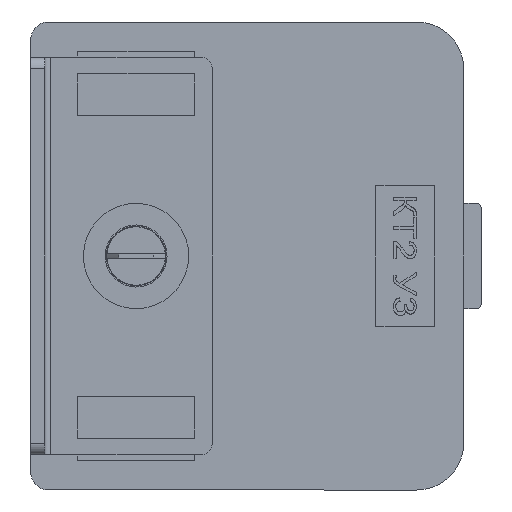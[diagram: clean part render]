
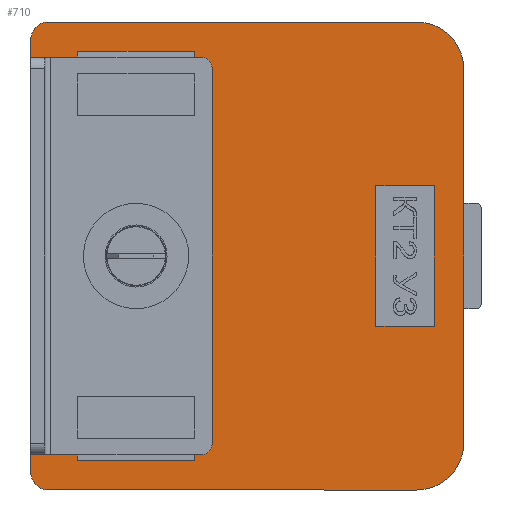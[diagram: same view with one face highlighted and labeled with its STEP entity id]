
A CAD part, front view. The second image highlights one B-rep face of the part: STEP entity #710.
In plain terms, the highlighted planar face has unit normal (0, -1, 0).
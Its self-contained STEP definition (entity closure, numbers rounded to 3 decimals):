
#710=ADVANCED_FACE('',(#51188,#51190,#51192),#51194,.T.);
#51188=FACE_BOUND('',#51189,.T.);
#51189=EDGE_LOOP('',(#91215,#91216,#91217,#91218,#91219,#91220,#91221,#91222));
#51190=FACE_BOUND('',#51191,.T.);
#51191=EDGE_LOOP('',(#91223,#91224,#91225,#91226,#91227,#91228,#91229,#91230,#91231,
#91232,#91233,#91234,#91235,#91236));
#51192=FACE_BOUND('',#51193,.T.);
#51193=EDGE_LOOP('',(#91237,#91238,#91239,#91240));
#51194=PLANE('',#51195);
#51195=AXIS2_PLACEMENT_3D('',#51196,#51197,#51198);
#51196=CARTESIAN_POINT('',(0.,-64.5,37.));
#51197=DIRECTION('',(0.,-1.,0.));
#51198=DIRECTION('',(0.,0.,-1.));
#91215=ORIENTED_EDGE('',*,*,#123098,.T.);
#91216=ORIENTED_EDGE('',*,*,#123099,.T.);
#91217=ORIENTED_EDGE('',*,*,#122857,.T.);
#91218=ORIENTED_EDGE('',*,*,#123097,.T.);
#91219=ORIENTED_EDGE('',*,*,#123100,.T.);
#91220=ORIENTED_EDGE('',*,*,#123101,.T.);
#91221=ORIENTED_EDGE('',*,*,#123102,.T.);
#91222=ORIENTED_EDGE('',*,*,#123103,.T.);
#91223=ORIENTED_EDGE('',*,*,#123104,.F.);
#91224=ORIENTED_EDGE('',*,*,#123105,.F.);
#91225=ORIENTED_EDGE('',*,*,#123106,.T.);
#91226=ORIENTED_EDGE('',*,*,#123107,.T.);
#91227=ORIENTED_EDGE('',*,*,#123108,.T.);
#91228=ORIENTED_EDGE('',*,*,#123109,.F.);
#91229=ORIENTED_EDGE('',*,*,#123110,.F.);
#91230=ORIENTED_EDGE('',*,*,#123111,.F.);
#91231=ORIENTED_EDGE('',*,*,#123112,.T.);
#91232=ORIENTED_EDGE('',*,*,#123113,.T.);
#91233=ORIENTED_EDGE('',*,*,#123114,.T.);
#91234=ORIENTED_EDGE('',*,*,#123115,.F.);
#91235=ORIENTED_EDGE('',*,*,#123116,.F.);
#91236=ORIENTED_EDGE('',*,*,#123117,.F.);
#91237=ORIENTED_EDGE('',*,*,#123118,.T.);
#91238=ORIENTED_EDGE('',*,*,#123119,.T.);
#91239=ORIENTED_EDGE('',*,*,#123120,.T.);
#91240=ORIENTED_EDGE('',*,*,#123121,.T.);
#122857=EDGE_CURVE('',#138982,#138980,#138983,.T.);
#123097=EDGE_CURVE('',#138980,#139419,#139421,.T.);
#123098=EDGE_CURVE('',#139422,#139423,#139424,.T.);
#123099=EDGE_CURVE('',#139423,#138982,#139425,.T.);
#123100=EDGE_CURVE('',#139419,#139426,#139427,.T.);
#123101=EDGE_CURVE('',#139426,#139428,#139429,.T.);
#123102=EDGE_CURVE('',#139428,#139430,#139431,.T.);
#123103=EDGE_CURVE('',#139430,#139422,#139432,.T.);
#123104=EDGE_CURVE('',#139433,#139434,#139435,.F.);
#123105=EDGE_CURVE('',#139436,#139433,#139437,.T.);
#123106=EDGE_CURVE('',#139436,#139438,#139439,.F.);
#123107=EDGE_CURVE('',#139438,#139440,#139441,.F.);
#123108=EDGE_CURVE('',#139440,#139442,#139443,.F.);
#123109=EDGE_CURVE('',#139444,#139442,#139445,.T.);
#123110=EDGE_CURVE('',#139446,#139444,#139447,.F.);
#123111=EDGE_CURVE('',#139448,#139446,#139449,.T.);
#123112=EDGE_CURVE('',#139448,#139450,#139451,.F.);
#123113=EDGE_CURVE('',#139450,#139452,#139453,.F.);
#123114=EDGE_CURVE('',#139452,#139454,#139455,.F.);
#123115=EDGE_CURVE('',#139456,#139454,#139457,.T.);
#123116=EDGE_CURVE('',#139458,#139456,#139459,.F.);
#123117=EDGE_CURVE('',#139434,#139458,#139460,.T.);
#123118=EDGE_CURVE('',#139461,#139462,#139463,.F.);
#123119=EDGE_CURVE('',#139462,#139464,#139465,.F.);
#123120=EDGE_CURVE('',#139464,#139466,#139467,.F.);
#123121=EDGE_CURVE('',#139466,#139461,#139468,.F.);
#138980=VERTEX_POINT('',#165963);
#138982=VERTEX_POINT('',#165967);
#138983=LINE('',#165968,#165969);
#139419=VERTEX_POINT('',#166907);
#139421=CIRCLE('',#166911,4.);
#139422=VERTEX_POINT('',#166915);
#139423=VERTEX_POINT('',#166916);
#139424=LINE('',#166917,#166918);
#139425=CIRCLE('',#166920,1.5);
#139426=VERTEX_POINT('',#166924);
#139427=LINE('',#166925,#166926);
#139428=VERTEX_POINT('',#166928);
#139429=CIRCLE('',#166929,4.);
#139430=VERTEX_POINT('',#166933);
#139431=LINE('',#166934,#166935);
#139432=CIRCLE('',#166937,1.5);
#139433=VERTEX_POINT('',#166941);
#139434=VERTEX_POINT('',#166942);
#139435=CIRCLE('',#166943,1.);
#139436=VERTEX_POINT('',#166947);
#139437=LINE('',#166948,#166949);
#139438=VERTEX_POINT('',#166951);
#139439=LINE('',#166952,#166953);
#139440=VERTEX_POINT('',#166955);
#139441=LINE('',#166956,#166957);
#139442=VERTEX_POINT('',#166959);
#139443=LINE('',#166960,#166961);
#139444=VERTEX_POINT('',#166963);
#139445=LINE('',#166964,#166965);
#139446=VERTEX_POINT('',#166967);
#139447=LINE('',#166968,#166969);
#139448=VERTEX_POINT('',#166971);
#139449=LINE('',#166972,#166973);
#139450=VERTEX_POINT('',#166975);
#139451=LINE('',#166976,#166977);
#139452=VERTEX_POINT('',#166979);
#139453=LINE('',#166980,#166981);
#139454=VERTEX_POINT('',#166983);
#139455=LINE('',#166984,#166985);
#139456=VERTEX_POINT('',#166987);
#139457=LINE('',#166988,#166989);
#139458=VERTEX_POINT('',#166991);
#139459=CIRCLE('',#166992,1.);
#139460=LINE('',#166996,#166997);
#139461=VERTEX_POINT('',#166999);
#139462=VERTEX_POINT('',#167000);
#139463=LINE('',#167001,#167002);
#139464=VERTEX_POINT('',#167004);
#139465=LINE('',#167005,#167006);
#139466=VERTEX_POINT('',#167008);
#139467=LINE('',#167009,#167010);
#139468=LINE('',#167012,#167013);
#165963=CARTESIAN_POINT('',(33.,-64.5,0.));
#165967=CARTESIAN_POINT('',(1.5,-64.5,0.));
#165968=CARTESIAN_POINT('',(1.5,-64.5,0.));
#165969=VECTOR('',#165970,1.);
#165970=DIRECTION('',(1.,0.,0.));
#166907=CARTESIAN_POINT('',(37.,-64.5,4.));
#166911=AXIS2_PLACEMENT_3D('',#166912,#166913,#166914);
#166912=CARTESIAN_POINT('',(33.,-64.5,4.));
#166913=DIRECTION('',(0.,-1.,0.));
#166914=DIRECTION('',(0.,0.,-1.));
#166915=CARTESIAN_POINT('',(0.,-64.5,38.5));
#166916=CARTESIAN_POINT('',(0.,-64.5,1.5));
#166917=CARTESIAN_POINT('',(0.,-64.5,38.5));
#166918=VECTOR('',#166919,1.);
#166919=DIRECTION('',(0.,0.,-1.));
#166920=AXIS2_PLACEMENT_3D('',#166921,#166922,#166923);
#166921=CARTESIAN_POINT('',(1.5,-64.5,1.5));
#166922=DIRECTION('',(0.,-1.,0.));
#166923=DIRECTION('',(-1.,0.,0.));
#166924=CARTESIAN_POINT('',(37.,-64.5,36.));
#166925=CARTESIAN_POINT('',(37.,-64.5,4.));
#166926=VECTOR('',#166927,1.);
#166927=DIRECTION('',(0.,0.,1.));
#166928=CARTESIAN_POINT('',(33.,-64.5,40.));
#166929=AXIS2_PLACEMENT_3D('',#166930,#166931,#166932);
#166930=CARTESIAN_POINT('',(33.,-64.5,36.));
#166931=DIRECTION('',(0.,-1.,0.));
#166932=DIRECTION('',(1.,0.,0.));
#166933=CARTESIAN_POINT('',(1.5,-64.5,40.));
#166934=CARTESIAN_POINT('',(33.,-64.5,40.));
#166935=VECTOR('',#166936,1.);
#166936=DIRECTION('',(-1.,0.,0.));
#166937=AXIS2_PLACEMENT_3D('',#166938,#166939,#166940);
#166938=CARTESIAN_POINT('',(1.5,-64.5,38.5));
#166939=DIRECTION('',(0.,-1.,0.));
#166940=DIRECTION('',(0.,0.,1.));
#166941=CARTESIAN_POINT('',(14.5,-64.5,3.));
#166942=CARTESIAN_POINT('',(15.5,-64.5,4.));
#166943=AXIS2_PLACEMENT_3D('',#166944,#166945,#166946);
#166944=CARTESIAN_POINT('',(14.5,-64.5,4.));
#166945=DIRECTION('',(0.,1.,0.));
#166946=DIRECTION('',(1.,0.,0.));
#166947=CARTESIAN_POINT('',(14.,-64.5,3.));
#166948=CARTESIAN_POINT('',(14.,-64.5,3.));
#166949=VECTOR('',#166950,1.);
#166950=DIRECTION('',(1.,0.,0.));
#166951=CARTESIAN_POINT('',(14.,-64.5,2.5));
#166952=CARTESIAN_POINT('',(14.,-64.5,2.5));
#166953=VECTOR('',#166954,1.);
#166954=DIRECTION('',(0.,0.,1.));
#166955=CARTESIAN_POINT('',(4.,-64.5,2.5));
#166956=CARTESIAN_POINT('',(4.,-64.5,2.5));
#166957=VECTOR('',#166958,1.);
#166958=DIRECTION('',(1.,0.,0.));
#166959=CARTESIAN_POINT('',(4.,-64.5,3.));
#166960=CARTESIAN_POINT('',(4.,-64.5,3.));
#166961=VECTOR('',#166962,1.);
#166962=DIRECTION('',(0.,0.,-1.));
#166963=CARTESIAN_POINT('',(1.7,-64.5,3.));
#166964=CARTESIAN_POINT('',(1.7,-64.5,3.));
#166965=VECTOR('',#166966,1.);
#166966=DIRECTION('',(1.,0.,0.));
#166967=CARTESIAN_POINT('',(1.7,-64.5,37.));
#166968=CARTESIAN_POINT('',(1.7,-64.5,3.));
#166969=VECTOR('',#166970,1.);
#166970=DIRECTION('',(0.,0.,1.));
#166971=CARTESIAN_POINT('',(4.,-64.5,37.));
#166972=CARTESIAN_POINT('',(4.,-64.5,37.));
#166973=VECTOR('',#166974,1.);
#166974=DIRECTION('',(-1.,0.,0.));
#166975=CARTESIAN_POINT('',(4.,-64.5,37.5));
#166976=CARTESIAN_POINT('',(4.,-64.5,37.5));
#166977=VECTOR('',#166978,1.);
#166978=DIRECTION('',(0.,0.,-1.));
#166979=CARTESIAN_POINT('',(14.,-64.5,37.5));
#166980=CARTESIAN_POINT('',(14.,-64.5,37.5));
#166981=VECTOR('',#166982,1.);
#166982=DIRECTION('',(-1.,0.,0.));
#166983=CARTESIAN_POINT('',(14.,-64.5,37.));
#166984=CARTESIAN_POINT('',(14.,-64.5,37.));
#166985=VECTOR('',#166986,1.);
#166986=DIRECTION('',(0.,0.,1.));
#166987=CARTESIAN_POINT('',(14.5,-64.5,37.));
#166988=CARTESIAN_POINT('',(14.5,-64.5,37.));
#166989=VECTOR('',#166990,1.);
#166990=DIRECTION('',(-1.,0.,0.));
#166991=CARTESIAN_POINT('',(15.5,-64.5,36.));
#166992=AXIS2_PLACEMENT_3D('',#166993,#166994,#166995);
#166993=CARTESIAN_POINT('',(14.5,-64.5,36.));
#166994=DIRECTION('',(0.,1.,0.));
#166995=DIRECTION('',(0.,0.,1.));
#166996=CARTESIAN_POINT('',(15.5,-64.5,4.));
#166997=VECTOR('',#166998,1.);
#166998=DIRECTION('',(0.,0.,1.));
#166999=CARTESIAN_POINT('',(34.5,-64.5,14.));
#167000=CARTESIAN_POINT('',(29.5,-64.5,14.));
#167001=CARTESIAN_POINT('',(29.5,-64.5,14.));
#167002=VECTOR('',#167003,1.);
#167003=DIRECTION('',(1.,0.,0.));
#167004=CARTESIAN_POINT('',(29.5,-64.5,26.));
#167005=CARTESIAN_POINT('',(29.5,-64.5,26.));
#167006=VECTOR('',#167007,1.);
#167007=DIRECTION('',(0.,0.,-1.));
#167008=CARTESIAN_POINT('',(34.5,-64.5,26.));
#167009=CARTESIAN_POINT('',(34.5,-64.5,26.));
#167010=VECTOR('',#167011,1.);
#167011=DIRECTION('',(-1.,0.,0.));
#167012=CARTESIAN_POINT('',(34.5,-64.5,14.));
#167013=VECTOR('',#167014,1.);
#167014=DIRECTION('',(0.,0.,1.));
